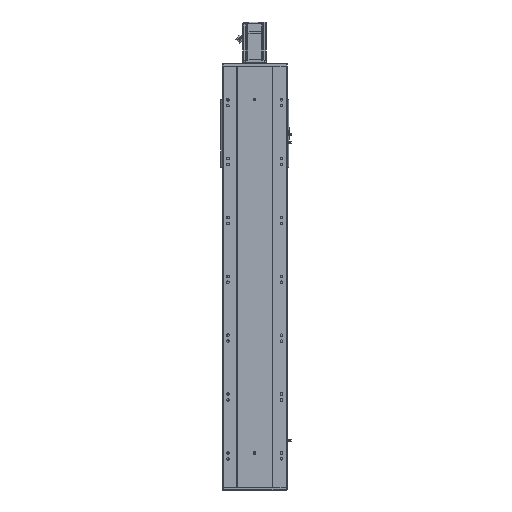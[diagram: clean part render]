
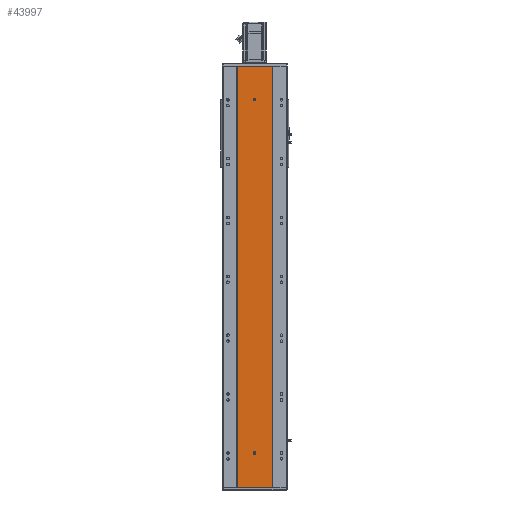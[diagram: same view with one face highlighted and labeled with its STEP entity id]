
A CAD part, front view. The second image highlights one B-rep face of the part: STEP entity #43997.
In plain terms, the highlighted planar face has unit normal (0, -1, 0).
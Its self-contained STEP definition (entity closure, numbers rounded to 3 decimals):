
#1222 = DIRECTION ( 'NONE',  ( 0., 0., -1. ) ) ;
#1834 = DIRECTION ( 'NONE',  ( 0., -1., 0. ) ) ;
#2135 = AXIS2_PLACEMENT_3D ( 'NONE', #45439, #50427, #11586 ) ;
#2413 = EDGE_CURVE ( 'NONE', #36246, #28465, #48322, .T. ) ;
#2691 = LINE ( 'NONE', #38327, #8945 ) ;
#3630 = DIRECTION ( 'NONE',  ( 0., 0., 1. ) ) ;
#4383 = ORIENTED_EDGE ( 'NONE', *, *, #18912, .F. ) ;
#5920 = VECTOR ( 'NONE', #16068, 1000. ) ;
#6512 = CIRCLE ( 'NONE', #2135, 4. ) ;
#6727 = CARTESIAN_POINT ( 'NONE',  ( 0., 0., 1322. ) ) ;
#7789 = ORIENTED_EDGE ( 'NONE', *, *, #32163, .F. ) ;
#7924 = LINE ( 'NONE', #12867, #18613 ) ;
#8945 = VECTOR ( 'NONE', #31683, 1000. ) ;
#8964 = DIRECTION ( 'NONE',  ( 0., 0., -1. ) ) ;
#9581 = DIRECTION ( 'NONE',  ( 0., 1., 0. ) ) ;
#10528 = CIRCLE ( 'NONE', #42680, 4. ) ;
#11199 = CARTESIAN_POINT ( 'NONE',  ( 4., 0., 116.5 ) ) ;
#11460 = DIRECTION ( 'NONE',  ( 0., 0., 1. ) ) ;
#11586 = DIRECTION ( 'NONE',  ( 0., 0., -1. ) ) ;
#11939 = AXIS2_PLACEMENT_3D ( 'NONE', #60851, #9581, #3630 ) ;
#12604 = LINE ( 'NONE', #67888, #25862 ) ;
#12867 = CARTESIAN_POINT ( 'NONE',  ( -60., 0., 0. ) ) ;
#13712 = VERTEX_POINT ( 'NONE', #66060 ) ;
#14811 = LINE ( 'NONE', #16538, #5920 ) ;
#14839 = AXIS2_PLACEMENT_3D ( 'NONE', #24172, #1834, #40971 ) ;
#16068 = DIRECTION ( 'NONE',  ( 0., 0., -1. ) ) ;
#16538 = CARTESIAN_POINT ( 'NONE',  ( -60., 0., 1432. ) ) ;
#17840 = VERTEX_POINT ( 'NONE', #39070 ) ;
#18149 = CARTESIAN_POINT ( 'NONE',  ( 4., 0., 116.5 ) ) ;
#18420 = CARTESIAN_POINT ( 'NONE',  ( 0., 0., 119.5 ) ) ;
#18613 = VECTOR ( 'NONE', #35633, 1000. ) ;
#18910 = ORIENTED_EDGE ( 'NONE', *, *, #2413, .F. ) ;
#18912 = EDGE_CURVE ( 'NONE', #46169, #42516, #50151, .T. ) ;
#19042 = VERTEX_POINT ( 'NONE', #6727 ) ;
#20261 = CARTESIAN_POINT ( 'NONE',  ( -4., 0., 116.5 ) ) ;
#22992 = FACE_OUTER_BOUND ( 'NONE', #37972, .T. ) ;
#23002 = CARTESIAN_POINT ( 'NONE',  ( -4., 0., 119.5 ) ) ;
#23340 = CARTESIAN_POINT ( 'NONE',  ( 4., 0., 119.5 ) ) ;
#24120 = DIRECTION ( 'NONE',  ( 0., 0., -1. ) ) ;
#24172 = CARTESIAN_POINT ( 'NONE',  ( 0., 0., 116.5 ) ) ;
#24546 = VECTOR ( 'NONE', #11460, 1000. ) ;
#25862 = VECTOR ( 'NONE', #27757, 1000. ) ;
#26825 = EDGE_CURVE ( 'NONE', #61269, #66560, #7924, .T. ) ;
#27757 = DIRECTION ( 'NONE',  ( 0., 0., -1. ) ) ;
#27818 = ORIENTED_EDGE ( 'NONE', *, *, #41128, .F. ) ;
#28465 = VERTEX_POINT ( 'NONE', #20261 ) ;
#29900 = ORIENTED_EDGE ( 'NONE', *, *, #35628, .F. ) ;
#30311 = CARTESIAN_POINT ( 'NONE',  ( -4., 0., 116.5 ) ) ;
#30321 = ORIENTED_EDGE ( 'NONE', *, *, #48993, .F. ) ;
#30726 = CARTESIAN_POINT ( 'NONE',  ( 0., 0., 1318. ) ) ;
#31683 = DIRECTION ( 'NONE',  ( 1., 0., 0. ) ) ;
#32025 = CARTESIAN_POINT ( 'NONE',  ( 0., 0., 1318. ) ) ;
#32163 = EDGE_CURVE ( 'NONE', #13712, #17840, #2691, .T. ) ;
#35628 = EDGE_CURVE ( 'NONE', #44613, #46169, #71679, .T. ) ;
#35633 = DIRECTION ( 'NONE',  ( 1., 0., 0. ) ) ;
#36032 = VERTEX_POINT ( 'NONE', #60869 ) ;
#36246 = VERTEX_POINT ( 'NONE', #23002 ) ;
#37297 = EDGE_LOOP ( 'NONE', ( #4383, #29900, #64348, #18910, #53186 ) ) ;
#37972 = EDGE_LOOP ( 'NONE', ( #72536, #30321, #7789, #67669 ) ) ;
#38327 = CARTESIAN_POINT ( 'NONE',  ( -60., 0., 1432. ) ) ;
#39070 = CARTESIAN_POINT ( 'NONE',  ( 60., 0., 1432. ) ) ;
#40971 = DIRECTION ( 'NONE',  ( 0., 0., -1. ) ) ;
#41128 = EDGE_CURVE ( 'NONE', #19042, #36032, #70771, .T. ) ;
#41616 = EDGE_LOOP ( 'NONE', ( #53510, #27818 ) ) ;
#42516 = VERTEX_POINT ( 'NONE', #23340 ) ;
#42638 = DIRECTION ( 'NONE',  ( 0., 0., -1. ) ) ;
#42680 = AXIS2_PLACEMENT_3D ( 'NONE', #18420, #58030, #24120 ) ;
#43878 = CARTESIAN_POINT ( 'NONE',  ( 0., 0., 112.5 ) ) ;
#43997 = ADVANCED_FACE ( 'NONE', ( #56635, #50434, #22992 ), #71530, .F. ) ;
#44613 = VERTEX_POINT ( 'NONE', #43878 ) ;
#45439 = CARTESIAN_POINT ( 'NONE',  ( 0., 0., 116.5 ) ) ;
#46073 = CARTESIAN_POINT ( 'NONE',  ( 60., 0., 0. ) ) ;
#46169 = VERTEX_POINT ( 'NONE', #18149 ) ;
#47753 = DIRECTION ( 'NONE',  ( 0., -1., 0. ) ) ;
#48322 = LINE ( 'NONE', #30311, #51891 ) ;
#48993 = EDGE_CURVE ( 'NONE', #17840, #66560, #12604, .T. ) ;
#50151 = LINE ( 'NONE', #11199, #24546 ) ;
#50427 = DIRECTION ( 'NONE',  ( 0., -1., 0. ) ) ;
#50434 = FACE_BOUND ( 'NONE', #37297, .T. ) ;
#50725 = CIRCLE ( 'NONE', #63435, 4. ) ;
#51891 = VECTOR ( 'NONE', #42638, 1000. ) ;
#52395 = EDGE_CURVE ( 'NONE', #13712, #61269, #14811, .T. ) ;
#53186 = ORIENTED_EDGE ( 'NONE', *, *, #67444, .F. ) ;
#53510 = ORIENTED_EDGE ( 'NONE', *, *, #62642, .F. ) ;
#56635 = FACE_BOUND ( 'NONE', #41616, .T. ) ;
#58030 = DIRECTION ( 'NONE',  ( 0., -1., 0. ) ) ;
#58612 = EDGE_CURVE ( 'NONE', #28465, #44613, #6512, .T. ) ;
#60481 = DIRECTION ( 'NONE',  ( 0., -1., 0. ) ) ;
#60851 = CARTESIAN_POINT ( 'NONE',  ( -60., 0., 1432. ) ) ;
#60869 = CARTESIAN_POINT ( 'NONE',  ( 0., 0., 1314. ) ) ;
#61269 = VERTEX_POINT ( 'NONE', #70217 ) ;
#62642 = EDGE_CURVE ( 'NONE', #36032, #19042, #50725, .T. ) ;
#63435 = AXIS2_PLACEMENT_3D ( 'NONE', #32025, #60481, #8964 ) ;
#64348 = ORIENTED_EDGE ( 'NONE', *, *, #58612, .F. ) ;
#65407 = AXIS2_PLACEMENT_3D ( 'NONE', #30726, #47753, #1222 ) ;
#66060 = CARTESIAN_POINT ( 'NONE',  ( -60., 0., 1432. ) ) ;
#66560 = VERTEX_POINT ( 'NONE', #46073 ) ;
#67444 = EDGE_CURVE ( 'NONE', #42516, #36246, #10528, .T. ) ;
#67669 = ORIENTED_EDGE ( 'NONE', *, *, #52395, .T. ) ;
#67888 = CARTESIAN_POINT ( 'NONE',  ( 60., 0., 1432. ) ) ;
#70217 = CARTESIAN_POINT ( 'NONE',  ( -60., 0., 0. ) ) ;
#70771 = CIRCLE ( 'NONE', #65407, 4. ) ;
#71530 = PLANE ( 'NONE',  #11939 ) ;
#71679 = CIRCLE ( 'NONE', #14839, 4. ) ;
#72536 = ORIENTED_EDGE ( 'NONE', *, *, #26825, .T. ) ;
